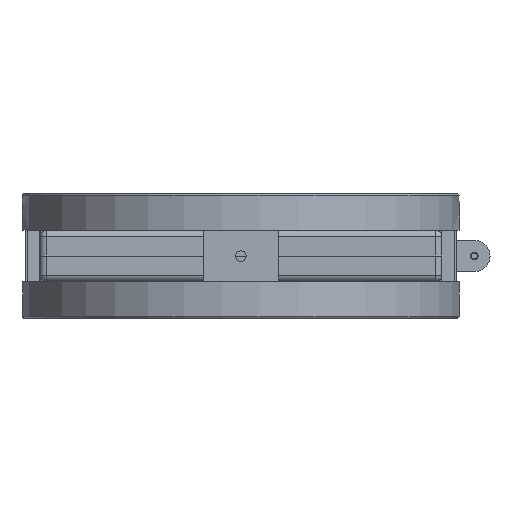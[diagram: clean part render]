
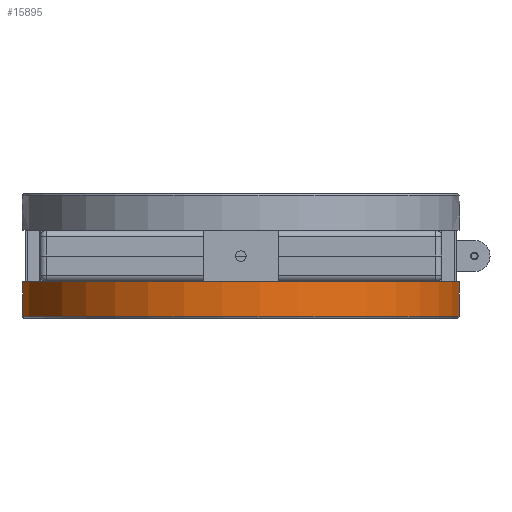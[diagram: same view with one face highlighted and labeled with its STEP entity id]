
A CAD part, front view. The second image highlights one B-rep face of the part: STEP entity #15895.
In plain terms, the highlighted cylindrical face has radius 175 mm (diameter 350 mm), a full revolution.
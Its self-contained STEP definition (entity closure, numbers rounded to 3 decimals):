
#15194=CYLINDRICAL_SURFACE('',#34989,175.);
#15895=ADVANCED_FACE('BCT_REF_50914',(#17484,#17485),#15194,.T.);
#17484=FACE_BOUND('',#18899,.T.);
#17485=FACE_BOUND('',#18900,.T.);
#18899=EDGE_LOOP('',(#21934));
#18900=EDGE_LOOP('',(#21935));
#21934=ORIENTED_EDGE('',*,*,#30538,.F.);
#21935=ORIENTED_EDGE('',*,*,#30537,.T.);
#27905=VERTEX_POINT('',#46766);
#27906=VERTEX_POINT('',#46769);
#30537=EDGE_CURVE('',#27905,#27905,#33533,.T.);
#30538=EDGE_CURVE('',#27906,#27906,#33534,.T.);
#33533=CIRCLE('',#34986,175.);
#33534=CIRCLE('',#34988,175.);
#34986=AXIS2_PLACEMENT_3D('',#46765,#38532,#38533);
#34988=AXIS2_PLACEMENT_3D('',#46768,#38536,#38537);
#34989=AXIS2_PLACEMENT_3D('',#46770,#38538,#38539);
#38532=DIRECTION('',(1.,0.,0.));
#38533=DIRECTION('',(0.,0.966,0.259));
#38536=DIRECTION('',(1.,0.,0.));
#38537=DIRECTION('',(0.,0.966,0.259));
#38538=DIRECTION('',(1.,0.,0.));
#38539=DIRECTION('',(0.,0.966,0.259));
#46765=CARTESIAN_POINT('',(-48.375,0.,526.));
#46766=CARTESIAN_POINT('',(-48.375,169.037,571.293));
#46768=CARTESIAN_POINT('',(-20.575,0.,526.));
#46769=CARTESIAN_POINT('',(-20.575,169.037,571.293));
#46770=CARTESIAN_POINT('',(-16.775,0.,526.));
